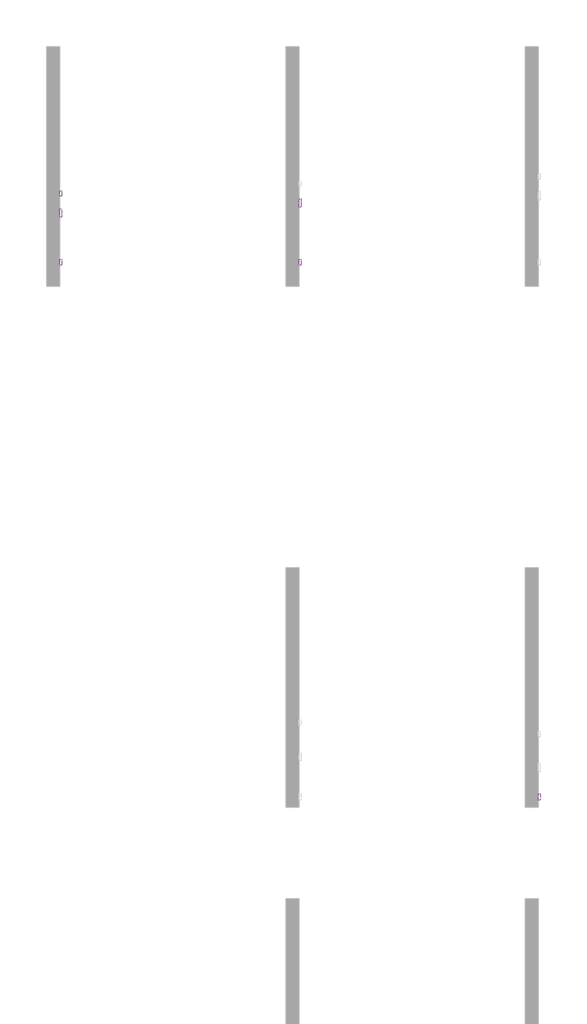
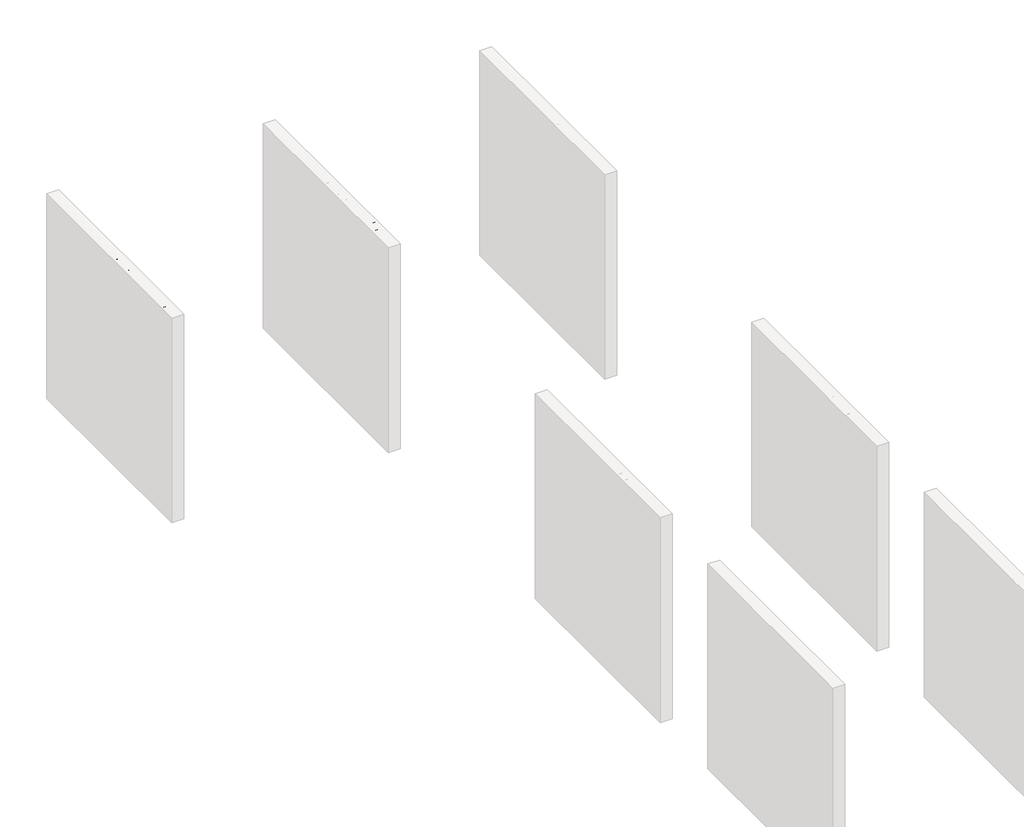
# One storey, part 9 of 17: 6 proxies.
"""IFC4 building model written with IfcOpenShell, lengths in millimetres."""

from ifc_helpers import new_model, si_unit, frame, origin, place, context, project, spatial, polyline, outline, extrude, element, save

model = new_model("IFC4")

# Units and contexts
model_context = context("Model", 3, world=origin())
ifc_project = project(units=[si_unit("LENGTHUNIT", "METRE", prefix="MILLI")], contexts=[model_context])

# Site, building, storey
site = spatial("IfcSite", under=ifc_project)
building = spatial("IfcBuilding", under=site)
storey = spatial("IfcBuildingStorey", under=building, Name="PORTOBELLO - SHOWROOM", Elevation=0.0)

# Proxies
placement = place(None, origin())
element("IfcBuildingElementProxy", 1, Name="10mm Arial", ObjectType="10mm Arial", at=placement, inside=storey, context=model_context, shape_type="SweptSolid", body=[
    extrude(outline(polyline([(5719.7242213, 2518.4745677), (5679.7722366, 2618.9308778), (5693.2121922, 2618.9308778), (5719.969476, 2546.5562266), (5725.389604, 2530.2467915), (5730.7361557, 2546.5562266), (5757.5670159, 2618.9308778), (5770.982446, 2618.9308778), (5732.6736675, 2518.4745677), (5719.7242213, 2518.4745677)])), frame((-13022.2794626, 0.0, 0.0), z_axis=(1.0, 0.0, 0.0), x_axis=(0.0, 1.0, 0.0)), (0.0, 0.0, 1.0), 20.0),
    extrude(outline(polyline([(5832.7620957, 2540.4493855), (5845.0738798, 2538.8797557), (5840.6378361, 2529.602998), (5833.5591733, 2522.6684224), (5823.9973071, 2518.345809), (5812.111653, 2516.9049378), (5797.3779791, 2519.391207), (5786.0410823, 2526.8500144), (5778.8122011, 2538.7969822), (5776.402574, 2554.7477324), (5778.8367266, 2571.2349771), (5786.1391842, 2583.5651553), (5797.3227968, 2591.253889), (5811.4004145, 2593.8168003), (5825.0396395, 2591.2600204), (5835.9381436, 2583.5896808), (5843.0842513, 2571.2840281), (5845.4662872, 2554.8213088), (5845.3927108, 2551.4367944), (5788.9596128, 2551.4367944), (5791.1331822, 2542.0374095), (5796.1823626, 2535.1273593), (5803.4694918, 2530.8783223), (5812.3569077, 2529.4619766), (5824.6686918, 2532.0862015), (5832.7620957, 2540.4493855)]), holes=[polyline([(5788.9596128, 2563.9938332), (5832.9092485, 2563.9938332), (5827.8815279, 2575.3736496), (5820.5606762, 2579.7882335), (5811.3513636, 2581.2597615), (5795.888057, 2576.5631347), (5791.0228176, 2571.0724959), (5788.9596128, 2563.9938332)])]), frame((-13022.2794626, 0.0, 0.0), z_axis=(1.0, 0.0, 0.0), x_axis=(0.0, 1.0, 0.0)), (0.0, 0.0, 1.0), 20.0),
    extrude(outline(polyline([(-13002.2794626, 5870.5803648), (-13002.2794626, 5858.023326), (-13022.2794626, 5858.023326), (-13022.2794626, 5870.5803648), (-13002.2794626, 5870.5803648)])), frame((0.0, 0.0, 2518.4745677), z_axis=(0.0, 0.0, 1.0), x_axis=(1.0, 0.0, 0.0)), (0.0, 0.0, 1.0), 100.4563101),
    extrude(outline(polyline([(5907.564768, 2518.4745677), (5881.5677737, 2592.2471704), (5894.836051, 2592.2471704), (5910.5814004, 2548.0522801), (5915.3148154, 2533.1898475), (5919.9501285, 2547.2184142), (5935.7690543, 2592.2471704), (5949.0618571, 2592.2471704), (5923.4327448, 2518.4745677), (5907.564768, 2518.4745677)])), frame((-13022.2794626, 0.0, 0.0), z_axis=(1.0, 0.0, 0.0), x_axis=(0.0, 1.0, 0.0)), (0.0, 0.0, 1.0), 20.0),
    extrude(outline(polyline([(6011.6998981, 2540.4493855), (6024.0116822, 2538.8797557), (6019.5756385, 2529.602998), (6012.4969758, 2522.6684224), (6002.9351096, 2518.345809), (5991.0494555, 2516.9049378), (5976.3157816, 2519.391207), (5964.9788847, 2526.8500144), (5957.7500035, 2538.7969822), (5955.3403765, 2554.7477324), (5957.774529, 2571.2349771), (5965.0769866, 2583.5651553), (5976.2605993, 2591.253889), (5990.3382169, 2593.8168003), (6003.9774419, 2591.2600204), (6014.875946, 2583.5896808), (6022.0220538, 2571.2840281), (6024.4040897, 2554.8213088), (6024.3305133, 2551.4367944), (5967.8974152, 2551.4367944), (5970.0709847, 2542.0374095), (5975.1201651, 2535.1273593), (5982.4072943, 2530.8783223), (5991.2947101, 2529.4619766), (6003.6064942, 2532.0862015), (6011.6998981, 2540.4493855)]), holes=[polyline([(5967.8974152, 2563.9938332), (6011.8470509, 2563.9938332), (6006.8193303, 2575.3736496), (5999.4984786, 2579.7882335), (5990.289166, 2581.2597615), (5974.8258595, 2576.5631347), (5969.9606201, 2571.0724959), (5967.8974152, 2563.9938332)])]), frame((-13022.2794626, 0.0, 0.0), z_axis=(1.0, 0.0, 0.0), x_axis=(0.0, 1.0, 0.0)), (0.0, 0.0, 1.0), 20.0),
    extrude(outline(polyline([(6063.6448359, 2528.9469418), (6065.2144657, 2518.1066857), (6055.8212121, 2516.9049378), (6045.299787, 2518.9896025), (6040.0513372, 2524.4587815), (6038.5307583, 2538.7080774), (6038.5307583, 2579.6901317), (6029.1129792, 2579.6901317), (6029.1129792, 2592.2471704), (6038.5307583, 2592.2471704), (6038.5307583, 2610.1752863), (6051.0877971, 2617.5574517), (6051.0877971, 2592.2471704), (6063.6448359, 2592.2471704), (6063.6448359, 2579.6901317), (6051.0877971, 2579.6901317), (6051.0877971, 2539.0759594), (6051.7499847, 2532.6012363), (6053.895963, 2530.3081052), (6058.1756569, 2529.4619766), (6063.6448359, 2528.9469418)])), frame((-13022.2794626, 0.0, 0.0), z_axis=(1.0, 0.0, 0.0), x_axis=(0.0, 1.0, 0.0)), (0.0, 0.0, 1.0), 20.0),
    extrude(outline(polyline([(6112.3033611, 2553.0064243), (6124.8603999, 2553.0064243), (6128.9071018, 2540.4371228), (6138.7908647, 2532.4908717), (6153.8495011, 2529.4619766), (6166.9706256, 2531.7551077), (6175.4441742, 2538.0581525), (6178.2278146, 2546.4826502), (6176.14315, 2554.3185367), (6167.6082877, 2560.0207077), (6149.3245525, 2564.8154363), (6129.6428658, 2571.0081166), (6118.9620252, 2580.3523193), (6115.4426208, 2592.8357816), (6119.795891, 2607.0482894), (6132.5123453, 2617.0792051), (6151.1271743, 2620.5005077), (6170.992802, 2616.9197896), (6184.2365539, 2606.3983645), (6189.2152235, 2590.6775406), (6176.6581848, 2590.6775406), (6174.3527909, 2598.1700706), (6169.5457995, 2603.5779359), (6151.6176836, 2607.9434689), (6133.6405168, 2603.6269868), (6127.9996595, 2593.2036636), (6131.9973106, 2584.4971231), (6152.5006004, 2577.4828397), (6174.7206729, 2571.1797948), (6186.8730415, 2561.0017263), (6190.7848534, 2546.8014813), (6186.2844303, 2531.7796332), (6173.3349841, 2520.8167497), (6154.3400104, 2516.9049378), (6131.9114714, 2521.123318), (6117.7234891, 2533.8275096), (6112.3033611, 2553.0064243)])), frame((-13022.2794626, 0.0, 0.0), z_axis=(1.0, 0.0, 0.0), x_axis=(0.0, 1.0, 0.0)), (0.0, 0.0, 1.0), 20.0),
    extrude(outline(polyline([(6255.1396771, 2518.4745677), (6255.1396771, 2531.1542338), (6245.3049651, 2520.4672618), (6232.4781462, 2516.9049378), (6220.6691341, 2519.4065354), (6212.5266793, 2525.6850548), (6208.7865457, 2534.9311556), (6208.0507817, 2546.6052776), (6208.0507817, 2592.2471704), (6220.6078205, 2592.2471704), (6220.6078205, 2552.515915), (6221.3681099, 2539.7136215), (6226.3345169, 2532.1965661), (6235.6909823, 2529.4619766), (6246.1756191, 2532.2578797), (6253.1040634, 2539.873037), (6255.1396771, 2553.8648156), (6255.1396771, 2592.2471704), (6267.6967158, 2592.2471704), (6267.6967158, 2518.4745677), (6255.1396771, 2518.4745677)])), frame((-13022.2794626, 0.0, 0.0), z_axis=(1.0, 0.0, 0.0), x_axis=(0.0, 1.0, 0.0)), (0.0, 0.0, 1.0), 20.0),
    extrude(outline(polyline([(6284.9626442, 2490.2212304), (6284.9626442, 2592.2471704), (6297.5196829, 2592.2471704), (6297.5196829, 2579.9353863), (6306.201698, 2590.3464468), (6317.9248709, 2593.8168003), (6333.8418986, 2588.9607579), (6344.2406963, 2575.2755477), (6347.747838, 2555.9249548), (6343.7869752, 2535.5810804), (6332.2845315, 2521.724192), (6316.404292, 2516.9049378), (6305.4781967, 2520.1300366), (6297.5196829, 2528.2847542), (6297.5196829, 2490.2212304), (6284.9626442, 2490.2212304)]), holes=[polyline([(6297.5196829, 2554.7722579), (6298.8777806, 2543.5150688), (6302.9520737, 2535.6423941), (6308.9638787, 2531.007081), (6316.1345119, 2529.4619766), (6323.4216411, 2531.0622633), (6329.5867302, 2535.8631233), (6333.789782, 2544.0239722), (6335.1907992, 2555.7042256), (6333.8235045, 2566.900101), (6329.7216202, 2574.8831403), (6323.7190123, 2579.6656062), (6316.6495467, 2581.2597615), (6309.5524898, 2579.5644386), (6303.3199557, 2574.4784701), (6298.9697511, 2566.1612713), (6297.5196829, 2554.7722579)])]), frame((-13022.2794626, 0.0, 0.0), z_axis=(1.0, 0.0, 0.0), x_axis=(0.0, 1.0, 0.0)), (0.0, 0.0, 1.0), 20.0),
    extrude(outline(polyline([(6361.8745066, 2518.4745677), (6361.8745066, 2592.2471704), (6372.8619155, 2592.2471704), (6372.8619155, 2581.3333379), (6380.6610138, 2591.3887791), (6388.5091631, 2593.8168003), (6401.1152528, 2589.9417766), (6396.921398, 2578.6845875), (6388.0922301, 2581.2597615), (6380.9921076, 2578.7826894), (6376.4671591, 2571.9155588), (6374.4315454, 2557.24933), (6374.4315454, 2518.4745677), (6361.8745066, 2518.4745677)])), frame((-13022.2794626, 0.0, 0.0), z_axis=(1.0, 0.0, 0.0), x_axis=(0.0, 1.0, 0.0)), (0.0, 0.0, 1.0), 20.0),
    extrude(outline(polyline([(6460.6140341, 2540.4493855), (6472.9258182, 2538.8797557), (6468.4897745, 2529.602998), (6461.4111118, 2522.6684224), (6451.8492456, 2518.345809), (6439.9635915, 2516.9049378), (6425.2299175, 2519.391207), (6413.8930207, 2526.8500144), (6406.6641395, 2538.7969822), (6404.2545125, 2554.7477324), (6406.688665, 2571.2349771), (6413.9911226, 2583.5651553), (6425.1747352, 2591.253889), (6439.2523529, 2593.8168003), (6452.8915779, 2591.2600204), (6463.790082, 2583.5896808), (6470.9361898, 2571.2840281), (6473.3182257, 2554.8213088), (6473.2446493, 2551.4367944), (6416.8115512, 2551.4367944), (6418.9851207, 2542.0374095), (6424.0343011, 2535.1273593), (6431.3214302, 2530.8783223), (6440.2088461, 2529.4619766), (6452.5206302, 2532.0862015), (6460.6140341, 2540.4493855)]), holes=[polyline([(6416.8115512, 2563.9938332), (6460.7611869, 2563.9938332), (6455.7334663, 2575.3736496), (6448.4126146, 2579.7882335), (6439.203302, 2581.2597615), (6423.7399955, 2576.5631347), (6418.8747561, 2571.0724959), (6416.8115512, 2563.9938332)])]), frame((-13022.2794626, 0.0, 0.0), z_axis=(1.0, 0.0, 0.0), x_axis=(0.0, 1.0, 0.0)), (0.0, 0.0, 1.0), 20.0),
    extrude(outline(polyline([(6485.8752645, 2518.4745677), (6485.8752645, 2592.2471704), (6498.4323032, 2592.2471704), (6498.4323032, 2580.1070646), (6507.0652674, 2590.0521412), (6519.352526, 2593.8168003), (6531.9340902, 2589.9785648), (6538.8502718, 2579.2241478), (6548.6481956, 2590.1686372), (6561.0212933, 2593.8168003), (6570.4605322, 2592.299287), (6577.441093, 2587.7467474), (6581.7545094, 2580.0365539), (6583.1923149, 2569.0460793), (6583.1923149, 2518.4745677), (6570.6352761, 2518.4745677), (6570.6352761, 2563.6504767), (6569.4703165, 2574.1351135), (6565.2519363, 2579.2977242), (6558.0782374, 2581.2597615), (6545.7296651, 2576.2320409), (6542.0416481, 2569.6898728), (6540.8123091, 2560.1188095), (6540.8123091, 2518.4745677), (6528.2552703, 2518.4745677), (6528.2552703, 2565.0484283), (6525.3490025, 2577.2130596), (6515.8208589, 2581.2597615), (6506.5257071, 2578.5619602), (6500.3452896, 2570.66476), (6498.4323032, 2555.6797001), (6498.4323032, 2518.4745677), (6485.8752645, 2518.4745677)])), frame((-13022.2794626, 0.0, 0.0), z_axis=(1.0, 0.0, 0.0), x_axis=(0.0, 1.0, 0.0)), (0.0, 0.0, 1.0), 20.0),
    extrude(outline(polyline([(6653.6785052, 2540.4493855), (6665.9902893, 2538.8797557), (6661.5542456, 2529.602998), (6654.4755828, 2522.6684224), (6644.9137166, 2518.345809), (6633.0280625, 2516.9049378), (6618.2943886, 2519.391207), (6606.9574918, 2526.8500144), (6599.7286106, 2538.7969822), (6597.3189835, 2554.7477324), (6599.7531361, 2571.2349771), (6607.0555937, 2583.5651553), (6618.2392063, 2591.253889), (6632.316824, 2593.8168003), (6645.956049, 2591.2600204), (6656.8545531, 2583.5896808), (6664.0006608, 2571.2840281), (6666.3826968, 2554.8213088), (6666.3091204, 2551.4367944), (6609.8760223, 2551.4367944), (6612.0495917, 2542.0374095), (6617.0987721, 2535.1273593), (6624.3859013, 2530.8783223), (6633.2733172, 2529.4619766), (6645.5851013, 2532.0862015), (6653.6785052, 2540.4493855)]), holes=[polyline([(6609.8760223, 2563.9938332), (6653.825658, 2563.9938332), (6648.7979374, 2575.3736496), (6641.4770857, 2579.7882335), (6632.2677731, 2581.2597615), (6616.8044665, 2576.5631347), (6611.9392271, 2571.0724959), (6609.8760223, 2563.9938332)])]), frame((-13022.2794626, 0.0, 0.0), z_axis=(1.0, 0.0, 0.0), x_axis=(0.0, 1.0, 0.0)), (0.0, 0.0, 1.0), 20.0),
])
element("IfcBuildingElementProxy", 2, Name="10mm Arial", ObjectType="10mm Arial", at=placement, inside=storey, context=model_context, shape_type="SweptSolid", body=[
    extrude(outline(polyline([(5690.0729325, 2518.4745677), (5690.0729325, 2618.9308778), (5727.3025904, 2618.9308778), (5742.3121758, 2617.9743846), (5754.5135953, 2613.2777578), (5762.4230582, 2603.5656731), (5765.4151651, 2589.8682002), (5763.3948798, 2578.0285313), (5757.3340239, 2568.1631625), (5746.0001928, 2561.5044984), (5728.1609817, 2559.2849437), (5702.6299713, 2559.2849437), (5702.6299713, 2518.4745677), (5690.0729325, 2518.4745677)]), holes=[polyline([(5702.6299713, 2571.8419824), (5728.8967457, 2571.8419824), (5747.3889473, 2576.4527701), (5751.4908316, 2582.0016569), (5752.8581263, 2589.4267418), (5749.6330275, 2599.8255395), (5741.1594789, 2605.5154477), (5728.6024401, 2606.373839), (5702.6299713, 2606.373839), (5702.6299713, 2571.8419824)])]), frame((-15722.2794626, 0.0, 0.0), z_axis=(1.0, 0.0, 0.0), x_axis=(0.0, 1.0, 0.0)), (0.0, 0.0, 1.0), 20.0),
    extrude(outline(polyline([(-15702.2794626, 5793.6685023), (-15702.2794626, 5781.1114636), (-15722.2794626, 5781.1114636), (-15722.2794626, 5793.6685023), (-15702.2794626, 5793.6685023)])), frame((0.0, 0.0, 2518.4745677), z_axis=(0.0, 0.0, 1.0), x_axis=(1.0, 0.0, 0.0)), (0.0, 0.0, 1.0), 73.7726028),
    extrude(outline(polyline([(-15702.2794626, 5793.6685023), (-15702.2794626, 5781.1114636), (-15722.2794626, 5781.1114636), (-15722.2794626, 5793.6685023), (-15702.2794626, 5793.6685023)])), frame((0.0, 0.0, 2606.373839), z_axis=(0.0, 0.0, 1.0), x_axis=(1.0, 0.0, 0.0)), (0.0, 0.0, 1.0), 12.5570388),
    extrude(outline(polyline([(5812.5040605, 2518.4745677), (5812.5040605, 2592.2471704), (5825.0610992, 2592.2471704), (5825.0610992, 2581.9464746), (5834.6628193, 2590.8492188), (5847.7716811, 2593.8168003), (5859.6297441, 2591.4255673), (5867.723148, 2585.1470479), (5871.487807, 2575.9132098), (5872.1499946, 2563.773104), (5872.1499946, 2518.4745677), (5859.5929559, 2518.4745677), (5859.5929559, 2562.0808468), (5858.1459533, 2573.1908831), (5853.0323936, 2579.0647323), (5844.4116922, 2581.2597615), (5830.7877956, 2576.3301428), (5826.4927733, 2569.1871007), (5825.0610992, 2557.6172119), (5825.0610992, 2518.4745677), (5812.5040605, 2518.4745677)])), frame((-15722.2794626, 0.0, 0.0), z_axis=(1.0, 0.0, 0.0), x_axis=(0.0, 1.0, 0.0)), (0.0, 0.0, 1.0), 20.0),
    extrude(outline(polyline([(5941.0665551, 2540.4493855), (5953.3783392, 2538.8797557), (5948.9422954, 2529.602998), (5941.8636327, 2522.6684224), (5932.3017665, 2518.345809), (5920.4161124, 2516.9049378), (5905.6824385, 2519.391207), (5894.3455417, 2526.8500144), (5887.1166605, 2538.7969822), (5884.7070334, 2554.7477324), (5887.1411859, 2571.2349771), (5894.4436435, 2583.5651553), (5905.6272562, 2591.253889), (5919.7048739, 2593.8168003), (5933.3440988, 2591.2600204), (5944.242603, 2583.5896808), (5951.3887107, 2571.2840281), (5953.7707466, 2554.8213088), (5953.6971702, 2551.4367944), (5897.2640722, 2551.4367944), (5899.4376416, 2542.0374095), (5904.486822, 2535.1273593), (5911.7739512, 2530.8783223), (5920.6613671, 2529.4619766), (5932.9731512, 2532.0862015), (5941.0665551, 2540.4493855)]), holes=[polyline([(5897.2640722, 2563.9938332), (5941.2137079, 2563.9938332), (5936.1859873, 2575.3736496), (5928.8651356, 2579.7882335), (5919.6558229, 2581.2597615), (5904.1925164, 2576.5631347), (5899.327277, 2571.0724959), (5897.2640722, 2563.9938332)])]), frame((-15722.2794626, 0.0, 0.0), z_axis=(1.0, 0.0, 0.0), x_axis=(0.0, 1.0, 0.0)), (0.0, 0.0, 1.0), 20.0),
    extrude(outline(polyline([(6002.4292719, 2553.0064243), (6014.9863106, 2553.0064243), (6019.0330126, 2540.4371228), (6028.9167755, 2532.4908717), (6043.9754118, 2529.4619766), (6057.0965363, 2531.7551077), (6065.570085, 2538.0581525), (6068.3537254, 2546.4826502), (6066.2690608, 2554.3185367), (6057.7341985, 2560.0207077), (6039.4504633, 2564.8154363), (6019.7687766, 2571.0081166), (6009.087936, 2580.3523193), (6005.5685315, 2592.8357816), (6009.9218018, 2607.0482894), (6022.6382561, 2617.0792051), (6041.2530851, 2620.5005077), (6061.1187128, 2616.9197896), (6074.3624646, 2606.3983645), (6079.3411343, 2590.6775406), (6066.7840955, 2590.6775406), (6064.4787017, 2598.1700706), (6059.6717103, 2603.5779359), (6041.7435944, 2607.9434689), (6023.7664276, 2603.6269868), (6018.1255703, 2593.2036636), (6022.1232213, 2584.4971231), (6042.6265112, 2577.4828397), (6064.8465837, 2571.1797948), (6076.9989523, 2561.0017263), (6080.9107642, 2546.8014813), (6076.4103411, 2531.7796332), (6063.4608949, 2520.8167497), (6044.4659212, 2516.9049378), (6022.0373822, 2521.123318), (6007.8493999, 2533.8275096), (6002.4292719, 2553.0064243)])), frame((-15722.2794626, 0.0, 0.0), z_axis=(1.0, 0.0, 0.0), x_axis=(0.0, 1.0, 0.0)), (0.0, 0.0, 1.0), 20.0),
    extrude(outline(polyline([(6145.2655878, 2518.4745677), (6145.2655878, 2531.1542338), (6135.4308758, 2520.4672618), (6122.6040569, 2516.9049378), (6110.7950449, 2519.4065354), (6102.6525901, 2525.6850548), (6098.9124565, 2534.9311556), (6098.1766925, 2546.6052776), (6098.1766925, 2592.2471704), (6110.7337312, 2592.2471704), (6110.7337312, 2552.515915), (6111.4940207, 2539.7136215), (6116.4604276, 2532.1965661), (6125.816893, 2529.4619766), (6136.3015299, 2532.2578797), (6143.2299741, 2539.873037), (6145.2655878, 2553.8648156), (6145.2655878, 2592.2471704), (6157.8226266, 2592.2471704), (6157.8226266, 2518.4745677), (6145.2655878, 2518.4745677)])), frame((-15722.2794626, 0.0, 0.0), z_axis=(1.0, 0.0, 0.0), x_axis=(0.0, 1.0, 0.0)), (0.0, 0.0, 1.0), 20.0),
    extrude(outline(polyline([(6175.0885549, 2490.2212304), (6175.0885549, 2592.2471704), (6187.6455937, 2592.2471704), (6187.6455937, 2579.9353863), (6196.3276088, 2590.3464468), (6208.0507817, 2593.8168003), (6223.9678094, 2588.9607579), (6234.3666071, 2575.2755477), (6237.8737488, 2555.9249548), (6233.912886, 2535.5810804), (6222.4104422, 2521.724192), (6206.5302028, 2516.9049378), (6195.6041075, 2520.1300366), (6187.6455937, 2528.2847542), (6187.6455937, 2490.2212304), (6175.0885549, 2490.2212304)]), holes=[polyline([(6187.6455937, 2554.7722579), (6189.0036914, 2543.5150688), (6193.0779845, 2535.6423941), (6199.0897894, 2531.007081), (6206.2604226, 2529.4619766), (6213.5475518, 2531.0622633), (6219.7126409, 2535.8631233), (6223.9156927, 2544.0239722), (6225.31671, 2555.7042256), (6223.9494153, 2566.900101), (6219.847531, 2574.8831403), (6213.8449231, 2579.6656062), (6206.7754574, 2581.2597615), (6199.6784006, 2579.5644386), (6193.4458665, 2574.4784701), (6189.0956619, 2566.1612713), (6187.6455937, 2554.7722579)])]), frame((-15722.2794626, 0.0, 0.0), z_axis=(1.0, 0.0, 0.0), x_axis=(0.0, 1.0, 0.0)), (0.0, 0.0, 1.0), 20.0),
    extrude(outline(polyline([(6252.0004174, 2518.4745677), (6252.0004174, 2592.2471704), (6262.9878263, 2592.2471704), (6262.9878263, 2581.3333379), (6270.7869246, 2591.3887791), (6278.6350738, 2593.8168003), (6291.2411635, 2589.9417766), (6287.0473088, 2578.6845875), (6278.2181409, 2581.2597615), (6271.1180184, 2578.7826894), (6266.5930699, 2571.9155588), (6264.5574562, 2557.24933), (6264.5574562, 2518.4745677), (6252.0004174, 2518.4745677)])), frame((-15722.2794626, 0.0, 0.0), z_axis=(1.0, 0.0, 0.0), x_axis=(0.0, 1.0, 0.0)), (0.0, 0.0, 1.0), 20.0),
    extrude(outline(polyline([(6350.7399449, 2540.4493855), (6363.051729, 2538.8797557), (6358.6156853, 2529.602998), (6351.5370225, 2522.6684224), (6341.9751564, 2518.345809), (6330.0895022, 2516.9049378), (6315.3558283, 2519.391207), (6304.0189315, 2526.8500144), (6296.7900503, 2538.7969822), (6294.3804232, 2554.7477324), (6296.8145758, 2571.2349771), (6304.1170334, 2583.5651553), (6315.300646, 2591.253889), (6329.3782637, 2593.8168003), (6343.0174887, 2591.2600204), (6353.9159928, 2583.5896808), (6361.0621005, 2571.2840281), (6363.4441365, 2554.8213088), (6363.3705601, 2551.4367944), (6306.937462, 2551.4367944), (6309.1110315, 2542.0374095), (6314.1602118, 2535.1273593), (6321.447341, 2530.8783223), (6330.3347569, 2529.4619766), (6342.646541, 2532.0862015), (6350.7399449, 2540.4493855)]), holes=[polyline([(6306.937462, 2563.9938332), (6350.8870977, 2563.9938332), (6345.8593771, 2575.3736496), (6338.5385254, 2579.7882335), (6329.3292128, 2581.2597615), (6313.8659062, 2576.5631347), (6309.0006669, 2571.0724959), (6306.937462, 2563.9938332)])]), frame((-15722.2794626, 0.0, 0.0), z_axis=(1.0, 0.0, 0.0), x_axis=(0.0, 1.0, 0.0)), (0.0, 0.0, 1.0), 20.0),
    extrude(outline(polyline([(6376.0011752, 2518.4745677), (6376.0011752, 2592.2471704), (6388.558214, 2592.2471704), (6388.558214, 2580.1070646), (6397.1911781, 2590.0521412), (6409.4784368, 2593.8168003), (6422.060001, 2589.9785648), (6428.9761825, 2579.2241478), (6438.7741063, 2590.1686372), (6451.1472041, 2593.8168003), (6460.586443, 2592.299287), (6467.5670038, 2587.7467474), (6471.8804202, 2580.0365539), (6473.3182257, 2569.0460793), (6473.3182257, 2518.4745677), (6460.7611869, 2518.4745677), (6460.7611869, 2563.6504767), (6459.5962273, 2574.1351135), (6455.3778471, 2579.2977242), (6448.2041481, 2581.2597615), (6435.8555758, 2576.2320409), (6432.1675588, 2569.6898728), (6430.9382198, 2560.1188095), (6430.9382198, 2518.4745677), (6418.3811811, 2518.4745677), (6418.3811811, 2565.0484283), (6415.4749133, 2577.2130596), (6405.9467696, 2581.2597615), (6396.6516179, 2578.5619602), (6390.4712004, 2570.66476), (6388.558214, 2555.6797001), (6388.558214, 2518.4745677), (6376.0011752, 2518.4745677)])), frame((-15722.2794626, 0.0, 0.0), z_axis=(1.0, 0.0, 0.0), x_axis=(0.0, 1.0, 0.0)), (0.0, 0.0, 1.0), 20.0),
    extrude(outline(polyline([(6543.804416, 2540.4493855), (6556.1162001, 2538.8797557), (6551.6801563, 2529.602998), (6544.6014936, 2522.6684224), (6535.0396274, 2518.345809), (6523.1539733, 2516.9049378), (6508.4202994, 2519.391207), (6497.0834026, 2526.8500144), (6489.8545214, 2538.7969822), (6487.4448943, 2554.7477324), (6489.8790468, 2571.2349771), (6497.1815044, 2583.5651553), (6508.3651171, 2591.253889), (6522.4427348, 2593.8168003), (6536.0819597, 2591.2600204), (6546.9804638, 2583.5896808), (6554.1265716, 2571.2840281), (6556.5086075, 2554.8213088), (6556.4350311, 2551.4367944), (6500.0019331, 2551.4367944), (6502.1755025, 2542.0374095), (6507.2246829, 2535.1273593), (6514.5118121, 2530.8783223), (6523.399228, 2529.4619766), (6535.7110121, 2532.0862015), (6543.804416, 2540.4493855)]), holes=[polyline([(6500.0019331, 2563.9938332), (6543.9515688, 2563.9938332), (6538.9238482, 2575.3736496), (6531.6029965, 2579.7882335), (6522.3936838, 2581.2597615), (6506.9303773, 2576.5631347), (6502.0651379, 2571.0724959), (6500.0019331, 2563.9938332)])]), frame((-15722.2794626, 0.0, 0.0), z_axis=(1.0, 0.0, 0.0), x_axis=(0.0, 1.0, 0.0)), (0.0, 0.0, 1.0), 20.0),
])
element("IfcBuildingElementProxy", 3, Name="10mm Arial", ObjectType="10mm Arial", at=placement, inside=storey, context=model_context, shape_type="SweptSolid", body=[
    extrude(outline(polyline([(5732.4529383, 2393.4745677), (5719.8958996, 2393.4745677), (5719.8958996, 2471.7598562), (5708.0010484, 2463.2863076), (5694.781822, 2456.9464746), (5694.781822, 2468.8168003), (5713.1881845, 2480.5644987), (5724.3595344, 2493.9308778), (5732.4529383, 2493.9308778), (5732.4529383, 2393.4745677)])), frame((-13022.2794626, 0.0, 0.0), z_axis=(1.0, 0.0, 0.0), x_axis=(0.0, 1.0, 0.0)), (0.0, 0.0, 1.0), 20.0),
    extrude(outline(polyline([(5762.2759054, 2442.8933823), (5765.9669881, 2471.7966444), (5776.9298715, 2488.4616988), (5795.2381322, 2493.9308778), (5809.904361, 2490.6935163), (5820.0333786, 2481.3615763), (5825.9194906, 2466.4991437), (5828.2003589, 2442.8933823), (5824.5460645, 2414.1127476), (5813.6199692, 2397.410905), (5805.3886096, 2393.2814296), (5795.2381322, 2391.9049378), (5782.1905841, 2394.2961708), (5772.2822957, 2401.4698697), (5764.777503, 2418.4598865), (5762.2759054, 2442.8933823)]), holes=[polyline([(5774.8329442, 2442.9179078), (5776.3044722, 2423.1657104), (5780.7190561, 2411.7337774), (5787.2918811, 2406.2799268), (5795.2381322, 2404.4619766), (5803.1843833, 2406.2860581), (5809.7572082, 2411.7583028), (5814.1717922, 2423.1963672), (5815.6433202, 2442.9179078), (5814.2208431, 2462.2255812), (5809.953412, 2473.746419), (5803.3928497, 2479.466984), (5795.0909794, 2481.373839), (5787.2305674, 2479.6938446), (5780.9152598, 2474.6538613), (5776.3535231, 2462.4156536), (5774.8329442, 2442.9179078)])]), frame((-13022.2794626, 0.0, 0.0), z_axis=(1.0, 0.0, 0.0), x_axis=(0.0, 1.0, 0.0)), (0.0, 0.0, 1.0), 20.0),
    extrude(outline(polyline([(5834.4788783, 2393.4745677), (5861.3097385, 2430.5815982), (5836.0485082, 2467.2471704), (5851.1071445, 2467.2471704), (5863.2963013, 2449.5643092), (5869.0107349, 2441.2501761), (5873.9648791, 2448.0682557), (5887.8462931, 2467.2471704), (5902.9539804, 2467.2471704), (5876.4174258, 2430.5570728), (5901.9729617, 2393.4745677), (5886.8897999, 2393.4745677), (5871.487807, 2415.792742), (5868.6919039, 2419.8884949), (5849.5865656, 2393.4745677), (5834.4788783, 2393.4745677)])), frame((-13022.2794626, 0.0, 0.0), z_axis=(1.0, 0.0, 0.0), x_axis=(0.0, 1.0, 0.0)), (0.0, 0.0, 1.0), 20.0),
    extrude(outline(polyline([(5974.1759346, 2406.0316064), (5974.1759346, 2393.4745677), (5908.2514811, 2393.4745677), (5909.6003817, 2402.1320573), (5917.2400645, 2415.4616482), (5932.9731512, 2430.0175125), (5954.6414007, 2450.9377353), (5960.049266, 2465.1625058), (5954.9357063, 2476.6772122), (5941.5815899, 2481.373839), (5927.6633877, 2476.7875768), (5922.3781497, 2464.1079107), (5909.8211109, 2465.6775406), (5912.8653344, 2477.8237778), (5919.4473565, 2486.6958652), (5929.2238205, 2492.1221247), (5941.85137, 2493.9308778), (5954.57089, 2491.9197896), (5964.3289599, 2485.8865249), (5970.5369686, 2476.873416), (5972.6063048, 2465.9227952), (5970.3744873, 2454.0156813), (5962.9555338, 2441.7038972), (5944.9661042, 2424.4992826), (5930.5206045, 2412.4204904), (5924.8552218, 2406.0316064), (5974.1759346, 2406.0316064)])), frame((-13022.2794626, 0.0, 0.0), z_axis=(1.0, 0.0, 0.0), x_axis=(0.0, 1.0, 0.0)), (0.0, 0.0, 1.0), 20.0),
    extrude(outline(polyline([(5986.7329734, 2442.8933823), (5990.4240561, 2471.7966444), (6001.3869395, 2488.4616988), (6019.6952002, 2493.9308778), (6034.361429, 2490.6935163), (6044.4904466, 2481.3615763), (6050.3765586, 2466.4991437), (6052.6574269, 2442.8933823), (6049.0031324, 2414.1127476), (6038.0770372, 2397.410905), (6029.8456775, 2393.2814296), (6019.6952002, 2391.9049378), (6006.6476521, 2394.2961708), (5996.7393637, 2401.4698697), (5989.234571, 2418.4598865), (5986.7329734, 2442.8933823)]), holes=[polyline([(5999.2900122, 2442.9179078), (6000.7615401, 2423.1657104), (6005.1761241, 2411.7337774), (6011.7489491, 2406.2799268), (6019.6952002, 2404.4619766), (6027.6414513, 2406.2860581), (6034.2142762, 2411.7583028), (6038.6288602, 2423.1963672), (6040.1003882, 2442.9179078), (6038.6779111, 2462.2255812), (6034.41048, 2473.746419), (6027.8499177, 2479.466984), (6019.5480474, 2481.373839), (6011.6876354, 2479.6938446), (6005.3723278, 2474.6538613), (6000.8105911, 2462.4156536), (5999.2900122, 2442.9179078)])]), frame((-13022.2794626, 0.0, 0.0), z_axis=(1.0, 0.0, 0.0), x_axis=(0.0, 1.0, 0.0)), (0.0, 0.0, 1.0), 20.0),
])
element("IfcBuildingElementProxy", 4, Name="10mm Arial", ObjectType="10mm Arial", at=placement, inside=storey, context=model_context, shape_type="SweptSolid", body=[
    extrude(outline(polyline([(5732.4529383, 2393.4745677), (5719.8958996, 2393.4745677), (5719.8958996, 2471.7598562), (5708.0010484, 2463.2863076), (5694.781822, 2456.9464746), (5694.781822, 2468.8168003), (5713.1881845, 2480.5644987), (5724.3595344, 2493.9308778), (5732.4529383, 2493.9308778), (5732.4529383, 2393.4745677)])), frame((-15722.2794626, 0.0, 0.0), z_axis=(1.0, 0.0, 0.0), x_axis=(0.0, 1.0, 0.0)), (0.0, 0.0, 1.0), 20.0),
    extrude(outline(polyline([(5762.2759054, 2442.8933823), (5765.9669881, 2471.7966444), (5776.9298715, 2488.4616988), (5795.2381322, 2493.9308778), (5809.904361, 2490.6935163), (5820.0333786, 2481.3615763), (5825.9194906, 2466.4991437), (5828.2003589, 2442.8933823), (5824.5460645, 2414.1127476), (5813.6199692, 2397.410905), (5805.3886096, 2393.2814296), (5795.2381322, 2391.9049378), (5782.1905841, 2394.2961708), (5772.2822957, 2401.4698697), (5764.777503, 2418.4598865), (5762.2759054, 2442.8933823)]), holes=[polyline([(5774.8329442, 2442.9179078), (5776.3044722, 2423.1657104), (5780.7190561, 2411.7337774), (5787.2918811, 2406.2799268), (5795.2381322, 2404.4619766), (5803.1843833, 2406.2860581), (5809.7572082, 2411.7583028), (5814.1717922, 2423.1963672), (5815.6433202, 2442.9179078), (5814.2208431, 2462.2255812), (5809.953412, 2473.746419), (5803.3928497, 2479.466984), (5795.0909794, 2481.373839), (5787.2305674, 2479.6938446), (5780.9152598, 2474.6538613), (5776.3535231, 2462.4156536), (5774.8329442, 2442.9179078)])]), frame((-15722.2794626, 0.0, 0.0), z_axis=(1.0, 0.0, 0.0), x_axis=(0.0, 1.0, 0.0)), (0.0, 0.0, 1.0), 20.0),
    extrude(outline(polyline([(5834.4788783, 2393.4745677), (5861.3097385, 2430.5815982), (5836.0485082, 2467.2471704), (5851.1071445, 2467.2471704), (5863.2963013, 2449.5643092), (5869.0107349, 2441.2501761), (5873.9648791, 2448.0682557), (5887.8462931, 2467.2471704), (5902.9539804, 2467.2471704), (5876.4174258, 2430.5570728), (5901.9729617, 2393.4745677), (5886.8897999, 2393.4745677), (5871.487807, 2415.792742), (5868.6919039, 2419.8884949), (5849.5865656, 2393.4745677), (5834.4788783, 2393.4745677)])), frame((-15722.2794626, 0.0, 0.0), z_axis=(1.0, 0.0, 0.0), x_axis=(0.0, 1.0, 0.0)), (0.0, 0.0, 1.0), 20.0),
    extrude(outline(polyline([(5974.1759346, 2406.0316064), (5974.1759346, 2393.4745677), (5908.2514811, 2393.4745677), (5909.6003817, 2402.1320573), (5917.2400645, 2415.4616482), (5932.9731512, 2430.0175125), (5954.6414007, 2450.9377353), (5960.049266, 2465.1625058), (5954.9357063, 2476.6772122), (5941.5815899, 2481.373839), (5927.6633877, 2476.7875768), (5922.3781497, 2464.1079107), (5909.8211109, 2465.6775406), (5912.8653344, 2477.8237778), (5919.4473565, 2486.6958652), (5929.2238205, 2492.1221247), (5941.85137, 2493.9308778), (5954.57089, 2491.9197896), (5964.3289599, 2485.8865249), (5970.5369686, 2476.873416), (5972.6063048, 2465.9227952), (5970.3744873, 2454.0156813), (5962.9555338, 2441.7038972), (5944.9661042, 2424.4992826), (5930.5206045, 2412.4204904), (5924.8552218, 2406.0316064), (5974.1759346, 2406.0316064)])), frame((-15722.2794626, 0.0, 0.0), z_axis=(1.0, 0.0, 0.0), x_axis=(0.0, 1.0, 0.0)), (0.0, 0.0, 1.0), 20.0),
    extrude(outline(polyline([(5986.7329734, 2442.8933823), (5990.4240561, 2471.7966444), (6001.3869395, 2488.4616988), (6019.6952002, 2493.9308778), (6034.361429, 2490.6935163), (6044.4904466, 2481.3615763), (6050.3765586, 2466.4991437), (6052.6574269, 2442.8933823), (6049.0031324, 2414.1127476), (6038.0770372, 2397.410905), (6029.8456775, 2393.2814296), (6019.6952002, 2391.9049378), (6006.6476521, 2394.2961708), (5996.7393637, 2401.4698697), (5989.234571, 2418.4598865), (5986.7329734, 2442.8933823)]), holes=[polyline([(5999.2900122, 2442.9179078), (6000.7615401, 2423.1657104), (6005.1761241, 2411.7337774), (6011.7489491, 2406.2799268), (6019.6952002, 2404.4619766), (6027.6414513, 2406.2860581), (6034.2142762, 2411.7583028), (6038.6288602, 2423.1963672), (6040.1003882, 2442.9179078), (6038.6779111, 2462.2255812), (6034.41048, 2473.746419), (6027.8499177, 2479.466984), (6019.5480474, 2481.373839), (6011.6876354, 2479.6938446), (6005.3723278, 2474.6538613), (6000.8105911, 2462.4156536), (5999.2900122, 2442.9179078)])]), frame((-15722.2794626, 0.0, 0.0), z_axis=(1.0, 0.0, 0.0), x_axis=(0.0, 1.0, 0.0)), (0.0, 0.0, 1.0), 20.0),
])
element("IfcBuildingElementProxy", 5, Name="10mm Arial", ObjectType="10mm Arial", at=placement, inside=storey, context=model_context, shape_type="SweptSolid", body=[
    extrude(outline(polyline([(-148.8255811, 2393.4745677), (-148.8255811, 2417.0190154), (-194.3448466, 2417.0190154), (-194.3448466, 2429.5760541), (-145.6863214, 2492.361248), (-136.2685423, 2492.361248), (-136.2685423, 2429.5760541), (-123.7115035, 2429.5760541), (-123.7115035, 2417.0190154), (-136.2685423, 2417.0190154), (-136.2685423, 2393.4745677), (-148.8255811, 2393.4745677)]), holes=[polyline([(-148.8255811, 2429.5760541), (-148.8255811, 2468.3753419), (-178.8938028, 2429.5760541), (-148.8255811, 2429.5760541)])]), frame((-10322.2794626, 0.0, 0.0), z_axis=(1.0, 0.0, 0.0), x_axis=(0.0, 1.0, 0.0)), (0.0, 0.0, 1.0), 20.0),
    extrude(outline(polyline([(-112.7240946, 2420.158275), (-100.1670558, 2421.7279049), (-93.8394855, 2408.7907214), (-80.718361, 2404.4619766), (-71.7175149, 2405.9672271), (-64.9730116, 2410.4829786), (-60.7607628, 2417.4880649), (-59.3566798, 2426.4613199), (-64.6173924, 2441.3728034), (-71.2239399, 2445.4746877), (-80.5221573, 2446.8419824), (-91.5463544, 2444.6592159), (-98.597426, 2438.9938332), (-111.1544648, 2440.563463), (-100.1670558, 2492.361248), (-51.5085306, 2492.361248), (-51.5085306, 2479.8042092), (-90.0135128, 2479.8042092), (-95.4091154, 2452.1394832), (-86.438926, 2457.5841367), (-77.0395411, 2459.3990212), (-65.3041054, 2457.1488097), (-55.5552325, 2450.3981751), (-48.9885389, 2440.1097419), (-46.7996411, 2427.2461348), (-48.7678097, 2414.6890961), (-54.6723158, 2403.9469418), (-65.9785557, 2394.9154388), (-80.7674119, 2391.9049378), (-93.1006558, 2393.839384), (-102.9261708, 2399.6427224), (-109.661477, 2408.6405029), (-112.7240946, 2420.158275)])), frame((-10322.2794626, 0.0, 0.0), z_axis=(1.0, 0.0, 0.0), x_axis=(0.0, 1.0, 0.0)), (0.0, 0.0, 1.0), 20.0),
    extrude(outline(polyline([(-40.5211217, 2393.4745677), (-13.6902615, 2430.5815982), (-38.9514918, 2467.2471704), (-23.8928555, 2467.2471704), (-11.7036987, 2449.5643092), (-5.9892651, 2441.2501761), (-1.0351209, 2448.0682557), (12.8462931, 2467.2471704), (27.9539804, 2467.2471704), (1.4174258, 2430.5570728), (26.9729617, 2393.4745677), (11.8897999, 2393.4745677), (-3.512193, 2415.792742), (-6.3080961, 2419.8884949), (-25.4134344, 2393.4745677), (-40.5211217, 2393.4745677)])), frame((-10322.2794626, 0.0, 0.0), z_axis=(1.0, 0.0, 0.0), x_axis=(0.0, 1.0, 0.0)), (0.0, 0.0, 1.0), 20.0),
    extrude(outline(polyline([(81.9100063, 2393.4745677), (69.3529675, 2393.4745677), (69.3529675, 2471.7598562), (57.4581164, 2463.2863076), (44.23889, 2456.9464746), (44.23889, 2468.8168003), (62.6452525, 2480.5644987), (73.8166024, 2493.9308778), (81.9100063, 2493.9308778), (81.9100063, 2393.4745677)])), frame((-10322.2794626, 0.0, 0.0), z_axis=(1.0, 0.0, 0.0), x_axis=(0.0, 1.0, 0.0)), (0.0, 0.0, 1.0), 20.0),
    extrude(outline(polyline([(176.0877971, 2406.0316064), (176.0877971, 2393.4745677), (110.1633435, 2393.4745677), (111.5122442, 2402.1320573), (119.151927, 2415.4616482), (134.8850136, 2430.0175125), (156.5532631, 2450.9377353), (161.9611285, 2465.1625058), (156.8475687, 2476.6772122), (143.4934523, 2481.373839), (129.5752502, 2476.7875768), (124.2900122, 2464.1079107), (111.7329734, 2465.6775406), (114.7771969, 2477.8237778), (121.3592189, 2486.6958652), (131.135683, 2492.1221247), (143.7632324, 2493.9308778), (156.4827524, 2491.9197896), (166.2408223, 2485.8865249), (172.448831, 2476.873416), (174.5181672, 2465.9227952), (172.2863498, 2454.0156813), (164.8673962, 2441.7038972), (146.8779667, 2424.4992826), (132.432467, 2412.4204904), (126.7670843, 2406.0316064), (176.0877971, 2406.0316064)])), frame((-10322.2794626, 0.0, 0.0), z_axis=(1.0, 0.0, 0.0), x_axis=(0.0, 1.0, 0.0)), (0.0, 0.0, 1.0), 20.0),
    extrude(outline(polyline([(188.6448359, 2442.8933823), (192.3359185, 2471.7966444), (203.298802, 2488.4616988), (221.6070626, 2493.9308778), (236.2732915, 2490.6935163), (246.4023091, 2481.3615763), (252.288421, 2466.4991437), (254.5692894, 2442.8933823), (250.9149949, 2414.1127476), (239.9888996, 2397.410905), (231.75754, 2393.2814296), (221.6070626, 2391.9049378), (208.5595145, 2394.2961708), (198.6512261, 2401.4698697), (191.1464334, 2418.4598865), (188.6448359, 2442.8933823)]), holes=[polyline([(201.2018746, 2442.9179078), (202.6734026, 2423.1657104), (207.0879865, 2411.7337774), (213.6608115, 2406.2799268), (221.6070626, 2404.4619766), (229.5533137, 2406.2860581), (236.1261387, 2411.7583028), (240.5407226, 2423.1963672), (242.0122506, 2442.9179078), (240.5897736, 2462.2255812), (236.3223424, 2473.746419), (229.7617802, 2479.466984), (221.4599098, 2481.373839), (213.5994979, 2479.6938446), (207.2841903, 2474.6538613), (202.7224535, 2462.4156536), (201.2018746, 2442.9179078)])]), frame((-10322.2794626, 0.0, 0.0), z_axis=(1.0, 0.0, 0.0), x_axis=(0.0, 1.0, 0.0)), (0.0, 0.0, 1.0), 20.0),
])
element("IfcBuildingElementProxy", 6, Name="10mm Arial Narrow", ObjectType="10mm Arial Narrow", at=placement, inside=storey, context=model_context, shape_type="SweptSolid", body=[
    extrude(outline(polyline([(6611.2528462, 2518.4745677), (6611.2528462, 2619.1931714), (6642.5497308, 2619.1931714), (6658.8454323, 2617.3148507), (6670.3184185, 2607.8344075), (6674.6080969, 2590.8152987), (6672.8217885, 2578.7394731), (6667.4628633, 2569.1130794), (6657.7190745, 2562.811821), (6642.7781752, 2560.7114015), (6620.9998078, 2560.7114015), (6620.9998078, 2518.4745677), (6611.2528462, 2518.4745677)]), holes=[polyline([(6620.9998078, 2572.0828568), (6643.9711627, 2572.0828568), (6659.8353581, 2576.613671), (6664.8611352, 2590.2822617), (6662.3863208, 2600.4480381), (6656.4086919, 2606.247988), (6643.7427183, 2607.8217162), (6620.9998078, 2607.8217162), (6620.9998078, 2572.0828568)])]), frame((-15722.2794626, 0.0, 0.0), z_axis=(1.0, 0.0, 0.0), x_axis=(0.0, 1.0, 0.0)), (0.0, 0.0, 1.0), 20.0),
    extrude(outline(polyline([(6682.7305649, 2555.0256739), (6684.6850338, 2571.6164494), (6690.5484404, 2583.5685342), (6699.4070071, 2590.7930888), (6710.3469563, 2593.2012737), (6721.1599919, 2590.7930888), (6730.0439413, 2583.5685342), (6735.9834961, 2571.8068198), (6737.9633476, 2555.7871552), (6736.0183973, 2538.6252687), (6730.1835462, 2526.4828135), (6721.334498, 2519.2582589), (6710.3469563, 2516.8500741), (6699.4863281, 2519.2646046), (6690.6118972, 2526.5081962), (6684.700898, 2538.4666267), (6682.7305649, 2555.0256739)]), holes=[polyline([(6692.4775266, 2555.0510566), (6693.7815635, 2542.4993052), (6697.693674, 2533.6280471), (6703.5348708, 2528.3547886), (6710.6261661, 2526.5970357), (6717.3462393, 2528.3706528), (6723.0383126, 2533.6915039), (6726.9218676, 2542.5786262), (6728.216386, 2555.0510566), (6726.9123491, 2567.5647339), (6723.0002385, 2576.4233006), (6717.1590418, 2581.6965592), (6710.0677465, 2583.454312), (6703.3000807, 2581.6870407), (6697.6175259, 2576.3852265), (6693.7625264, 2567.5171413), (6692.4775266, 2555.0510566)])]), frame((-15722.2794626, 0.0, 0.0), z_axis=(1.0, 0.0, 0.0), x_axis=(0.0, 1.0, 0.0)), (0.0, 0.0, 1.0), 20.0),
    extrude(outline(polyline([(6809.4410664, 2526.5970357), (6811.06556, 2516.8500741), (6803.7045734, 2516.8500741), (6795.4298091, 2518.9695306), (6791.1147479, 2524.7694804), (6789.9471431, 2539.4153056), (6789.9471431, 2581.8298184), (6781.8246751, 2581.8298184), (6781.8246751, 2585.0788056), (6780.2001815, 2580.2053248), (6772.6361331, 2581.8298184), (6766.5569734, 2579.5073002), (6762.6861098, 2573.0220171), (6760.7062582, 2557.6147106), (6760.7062582, 2518.4745677), (6750.9592965, 2518.4745677), (6750.9592965, 2591.5767801), (6760.7062582, 2591.5767801), (6760.7062582, 2581.8805838), (6766.9504055, 2590.967595), (6773.3468491, 2593.2012737), (6781.8246751, 2591.5767801), (6789.9471431, 2591.5767801), (6789.9471431, 2607.8217162), (6799.6941048, 2615.9441842), (6799.6941048, 2591.5767801), (6809.4410664, 2591.5767801), (6809.4410664, 2581.8298184), (6799.6941048, 2581.8298184), (6799.6941048, 2537.1816269), (6800.557117, 2529.1860724), (6805.1767707, 2526.5970357), (6809.4410664, 2526.5970357)])), frame((-15722.2794626, 0.0, 0.0), z_axis=(1.0, 0.0, 0.0), x_axis=(0.0, 1.0, 0.0)), (0.0, 0.0, 1.0), 20.0),
    extrude(outline(polyline([(6815.9390409, 2555.0256739), (6817.8935097, 2571.6164494), (6823.7569164, 2583.5685342), (6832.6154831, 2590.7930888), (6843.5554322, 2593.2012737), (6854.3684678, 2590.7930888), (6863.2524172, 2583.5685342), (6869.191972, 2571.8068198), (6871.1718236, 2555.7871552), (6869.2268732, 2538.6252687), (6863.3920222, 2526.4828135), (6854.542974, 2519.2582589), (6843.5554322, 2516.8500741), (6832.6948041, 2519.2646046), (6823.8203731, 2526.5081962), (6817.9093739, 2538.4666267), (6815.9390409, 2555.0256739)]), holes=[polyline([(6825.6860025, 2555.0510566), (6826.9900394, 2542.4993052), (6830.90215, 2533.6280471), (6836.7433467, 2528.3547886), (6843.8346421, 2526.5970357), (6850.5547152, 2528.3706528), (6856.2467885, 2533.6915039), (6860.1303436, 2542.5786262), (6861.4248619, 2555.0510566), (6860.1208251, 2567.5647339), (6856.2087145, 2576.4233006), (6850.3675177, 2581.6965592), (6843.2762224, 2583.454312), (6836.5085566, 2581.6870407), (6830.8260018, 2576.3852265), (6826.9710024, 2567.5171413), (6825.6860025, 2555.0510566)])]), frame((-15722.2794626, 0.0, 0.0), z_axis=(1.0, 0.0, 0.0), x_axis=(0.0, 1.0, 0.0)), (0.0, 0.0, 1.0), 20.0),
    extrude(outline(polyline([(6893.9147341, 2518.4745677), (6884.1677724, 2518.4745677), (6884.1677724, 2619.1931714), (6893.9147341, 2619.1931714), (6893.9147341, 2583.7842873), (6901.3137948, 2590.8660641), (6910.5150282, 2593.2012737), (6923.3967548, 2589.0004347), (6932.6741363, 2576.2710043), (6936.1515679, 2555.5840935), (6934.2193089, 2539.1297501), (6928.4225319, 2526.927011), (6920.0494096, 2519.3693083), (6910.3881146, 2516.8500741), (6901.0472764, 2519.4644935), (6893.9147341, 2527.2316035), (6893.9147341, 2518.4745677)]), holes=[polyline([(6893.9147341, 2555.5840935), (6895.9961165, 2538.3365403), (6901.8849059, 2529.6048872), (6910.3373492, 2526.5970357), (6916.2800768, 2528.3865169), (6921.5184341, 2533.7549607), (6926.4046063, 2555.1779701), (6921.6961131, 2576.613671), (6916.4514101, 2581.7441518), (6910.1342875, 2583.454312), (6904.1566587, 2581.6648308), (6898.8643631, 2576.2963871), (6893.9147341, 2555.5840935)])]), frame((-15722.2794626, 0.0, 0.0), z_axis=(1.0, 0.0, 0.0), x_axis=(0.0, 1.0, 0.0)), (0.0, 0.0, 1.0), 20.0),
    extrude(outline(polyline([(6988.1353634, 2541.2174782), (6997.8823251, 2539.5929846), (6994.1827947, 2529.706418), (6988.3638078, 2522.5865671), (6980.6601545, 2518.2841973), (6971.3066249, 2516.8500741), (6959.7130709, 2519.2646046), (6950.5689487, 2526.5081962), (6944.629394, 2538.3143304), (6942.6495424, 2554.4164888), (6944.6389125, 2571.0834124), (6950.6070228, 2583.2639417), (6959.6210586, 2590.7169407), (6970.7482053, 2593.2012737), (6981.4311544, 2590.8026073), (6990.1786718, 2583.6066083), (6996.0135229, 2571.8671037), (6997.9584732, 2555.8379207), (6997.8823251, 2552.5889335), (6952.396504, 2552.5889335), (6958.3995156, 2533.1457756), (6964.3295518, 2528.2342207), (6971.4335385, 2526.5970357), (6981.6120063, 2530.2521463), (6988.1353634, 2541.2174782)]), holes=[polyline([(6953.0564546, 2562.3358951), (6988.1353634, 2562.3358951), (6983.8710677, 2576.6009796), (6978.0457351, 2581.7409789), (6970.8243534, 2583.454312), (6958.6152686, 2577.7432017), (6953.0564546, 2562.3358951)])]), frame((-15722.2794626, 0.0, 0.0), z_axis=(1.0, 0.0, 0.0), x_axis=(0.0, 1.0, 0.0)), (0.0, 0.0, 1.0), 20.0),
    extrude(outline(polyline([(-15702.2794626, 7020.6252356), (-15702.2794626, 7010.8782739), (-15722.2794626, 7010.8782739), (-15722.2794626, 7020.6252356), (-15702.2794626, 7020.6252356)])), frame((0.0, 0.0, 2518.4745677), z_axis=(0.0, 0.0, 1.0), x_axis=(1.0, 0.0, 0.0)), (0.0, 0.0, 1.0), 100.7186038),
    extrude(outline(polyline([(-15702.2794626, 7046.6171333), (-15702.2794626, 7036.8701717), (-15722.2794626, 7036.8701717), (-15722.2794626, 7046.6171333), (-15702.2794626, 7046.6171333)])), frame((0.0, 0.0, 2518.4745677), z_axis=(0.0, 0.0, 1.0), x_axis=(1.0, 0.0, 0.0)), (0.0, 0.0, 1.0), 100.7186038),
    extrude(outline(polyline([(7057.9885886, 2555.0256739), (7059.9430575, 2571.6164494), (7065.8064641, 2583.5685342), (7074.6650308, 2590.7930888), (7085.60498, 2593.2012737), (7096.4180155, 2590.7930888), (7105.301965, 2583.5685342), (7111.2415197, 2571.8068198), (7113.2213713, 2555.7871552), (7111.276421, 2538.6252687), (7105.4415699, 2526.4828135), (7096.5925217, 2519.2582589), (7085.60498, 2516.8500741), (7074.7443518, 2519.2646046), (7065.8699209, 2526.5081962), (7059.9589217, 2538.4666267), (7057.9885886, 2555.0256739)]), holes=[polyline([(7067.7355503, 2555.0510566), (7069.0395871, 2542.4993052), (7072.9516977, 2533.6280471), (7078.7928944, 2528.3547886), (7085.8841898, 2526.5970357), (7092.604263, 2528.3706528), (7098.2963363, 2533.6915039), (7102.1798913, 2542.5786262), (7103.4744097, 2555.0510566), (7102.1703728, 2567.5647339), (7098.2582622, 2576.4233006), (7092.4170655, 2581.6965592), (7085.3257701, 2583.454312), (7078.5581044, 2581.6870407), (7072.8755496, 2576.3852265), (7069.0205501, 2567.5171413), (7067.7355503, 2555.0510566)])]), frame((-15722.2794626, 0.0, 0.0), z_axis=(1.0, 0.0, 0.0), x_axis=(0.0, 1.0, 0.0)), (0.0, 0.0, 1.0), 20.0),
])

save(model, "model.ifc")
